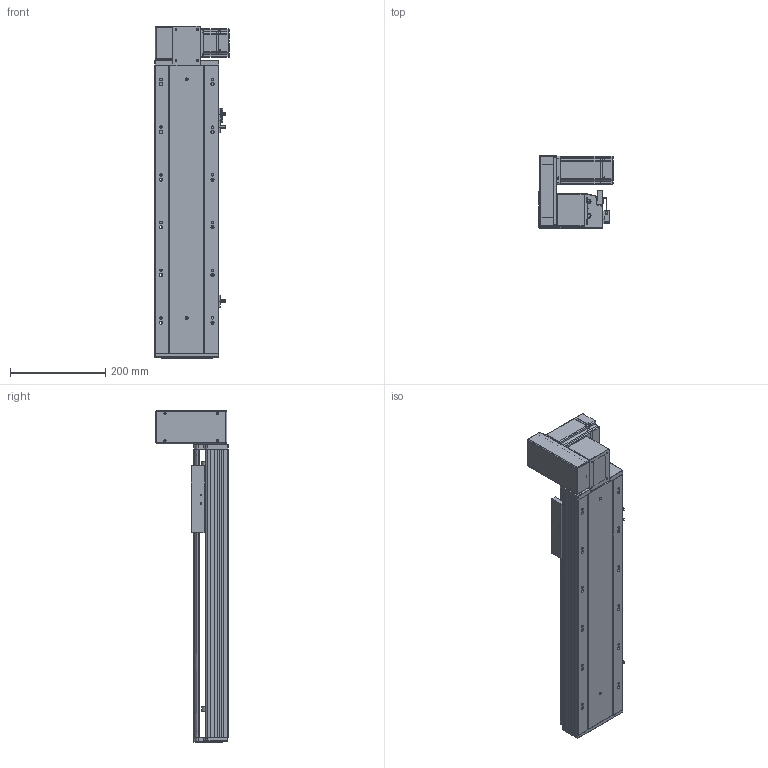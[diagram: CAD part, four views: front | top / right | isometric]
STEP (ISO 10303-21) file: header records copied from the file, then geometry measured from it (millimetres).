
FILE_DESCRIPTION (( 'STEP AP203' ), '1' );
FILE_NAME ('RY140-T-300-UL.SLDASM_350.step', '2021-03-01T07:42:55', ( '盈信电脑' ), ( '东莞市道滘镇水果街19号' ), 'SwSTEP 2.0', 'SolidWorks 2012', '' );
FILE_SCHEMA (( 'CONFIG_CONTROL_DESIGN' ));
Products named in the file (18): RY140-T-300-UL.SLDASM_350; RY140-T翋肮謫裔啣; 滅袉蝶18-10; RY120-T蹟翐M4; RY120-T主同步轮轴承压盖; RY140-T萇儂欶; RY140-T翋肮祭謫盓傅釱; 侂狟400W侜督萇儂; 15; RY140-T萇儂假蚾啣; RY120-T肮祭湍揤踡輸1; RY120-T肮祭湍揤踡輸2; RY120外置感应片(140共用）; RY140綴裔啣; RY140肮祭謫臏賑輸; RY140-T-300-DL倰第奻裔啣_350; 覜茼ん672; RY140-T-300-DL倰第菁釱_350
Assembly tree (23 placements, depth 3):
  RY140-T-300-UL.SLDASM_350
    RY140-T-300-DL倰第菁釱_350
    RY140肮祭謫臏賑輸
    RY140-T-300-DL倰第奻裔啣_350
    RY140綴裔啣
    覜茼ん672  x3
    RY120外置感应片(140共用）
    RY120-T肮祭湍揤踡輸2
    RY120-T肮祭湍揤踡輸1
    RY140-T翋肮祭謫盓傅釱
    RY140-T萇儂假蚾啣
    侂狟400W侜督萇儂
      15
    RY120-T主同步轮轴承压盖
    RY120-T蹟翐M4  x4
    RY140-T萇儂欶
    滅袉蝶18-10  x2
    RY140-T翋肮謫裔啣
Bounding box: 157 x 152.5 x 696 mm (x, y, z)
Volume: 2440118.5 mm3; surface area: 890014.7 mm2
Topology: 22 solids, 22 shells, 2567 faces, 7017 edges, 4528 vertices
Faces by surface type: plane 1381, cylinder 908, cone 178, bspline 100
Entity records: 81267 total; most frequent: CARTESIAN_POINT 19917, ORIENTED_EDGE 12602, DIRECTION 11925, EDGE_CURVE 6301, VERTEX_POINT 4127, VECTOR 4093, LINE 4093, AXIS2_PLACEMENT_3D 3916
